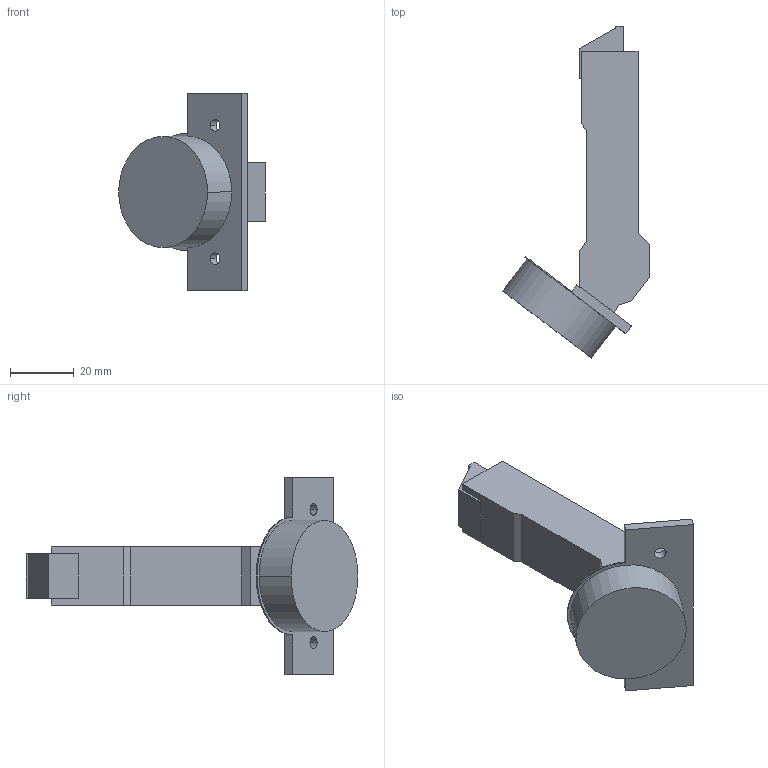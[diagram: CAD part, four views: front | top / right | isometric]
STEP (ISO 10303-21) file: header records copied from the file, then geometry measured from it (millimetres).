
FILE_DESCRIPTION (( 'STEP AP214' ), '1' );
FILE_NAME ('Scharnier T Click-on 110°_+37° G_BB, aufliegend.step', '2010-12-13T10:20:24', ( 'grass' ), ( '' ), 'SwSTEP 2.0', 'SolidWorks 2010', '' );
FILE_SCHEMA (( 'AUTOMOTIVE_DESIGN' ));
Length unit declared in the file: millimetre
Products named in the file (1): Scharnier T Click-on 110°_+37° G_BB, aufliegend
Bounding box: 46.13 x 104.41 x 62 mm (x, y, z)
Volume: 42727.2 mm3; surface area: 11945.9 mm2
Topology: 1 solids, 1 shells, 48 faces, 123 edges, 82 vertices
Faces by surface type: plane 35, cylinder 13
Entity records: 1495 total; most frequent: CARTESIAN_POINT 254, DIRECTION 247, ORIENTED_EDGE 246, EDGE_CURVE 123, LINE 97, VECTOR 97, VERTEX_POINT 82, AXIS2_PLACEMENT_3D 75
